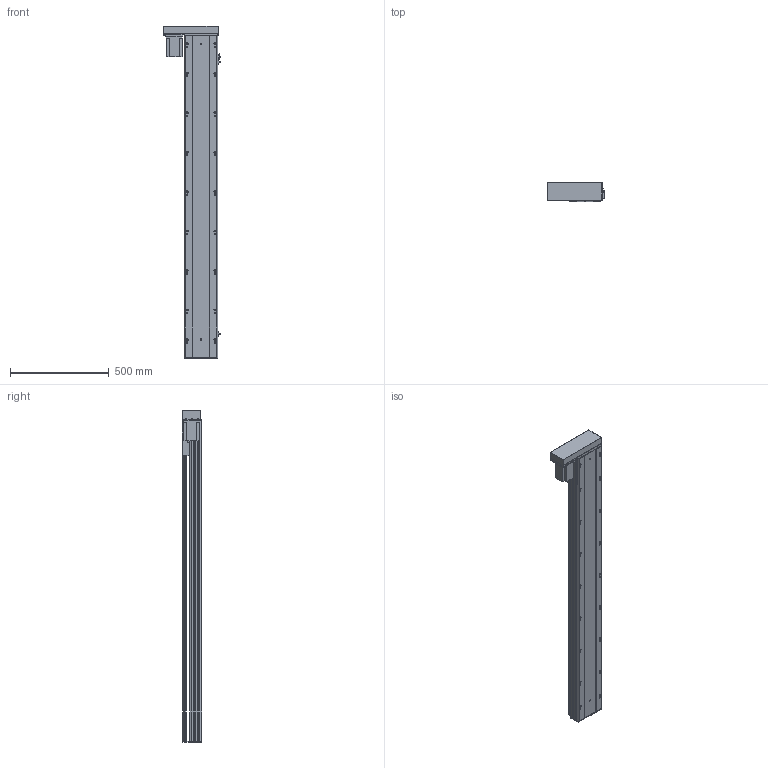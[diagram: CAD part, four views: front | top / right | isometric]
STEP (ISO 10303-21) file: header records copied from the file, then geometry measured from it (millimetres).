
FILE_DESCRIPTION (( 'STEP AP203' ), '1' );
FILE_NAME ('Y170-D10-S1400-BL-P750W.STEP', '2020-01-19T23:17:06', ( '微软用户' ), ( '微软中国' ), 'SwSTEP 2.0', 'SolidWorks 2017', '' );
FILE_SCHEMA (( 'CONFIG_CONTROL_DESIGN' ));
Length unit declared in the file: millimetre
Products named in the file (12): EGH20賑輸_蕼偞; Y雄赽釱-耜蚾; Y-BL.BR-俋欶; Y170耜裔--準---; Y170-陔遴奻裔-BR; YD-Y100-135-新外置传感挡片(通用）; Y--BL蟀諉啣-陔遴-; Y100-135俋离換覜ん; Y170-D10-S1400-BL-P750W; 170--掛极-BR; Y170-BL-P750W楊擘啣; 侂狟750W
Assembly tree (14 placements, depth 2):
  Y170-D10-S1400-BL-P750W
    Y170耜裔--準---
    YD-Y100-135-新外置传感挡片(通用）
    Y100-135俋离換覜ん  x3
    170--掛极-BR
    Y170-BL-P750W楊擘啣
    侂狟750W
    EGH20賑輸_蕼偞  x2
    Y雄赽釱-耜蚾
    Y-BL.BR-俋欶
    Y170-陔遴奻裔-BR
    Y--BL蟀諉啣-陔遴-
Bounding box: 289 x 97 x 1683.5 mm (x, y, z)
Volume: 7570227.9 mm3; surface area: 2666398.7 mm2
Topology: 14 solids, 14 shells, 957 faces, 2738 edges, 1808 vertices
Faces by surface type: cylinder 498, plane 443, cone 16
Entity records: 30810 total; most frequent: CARTESIAN_POINT 5606, DIRECTION 5068, ORIENTED_EDGE 4972, EDGE_CURVE 2486, AXIS2_PLACEMENT_3D 1810, VERTEX_POINT 1652, VECTOR 1448, LINE 1448
